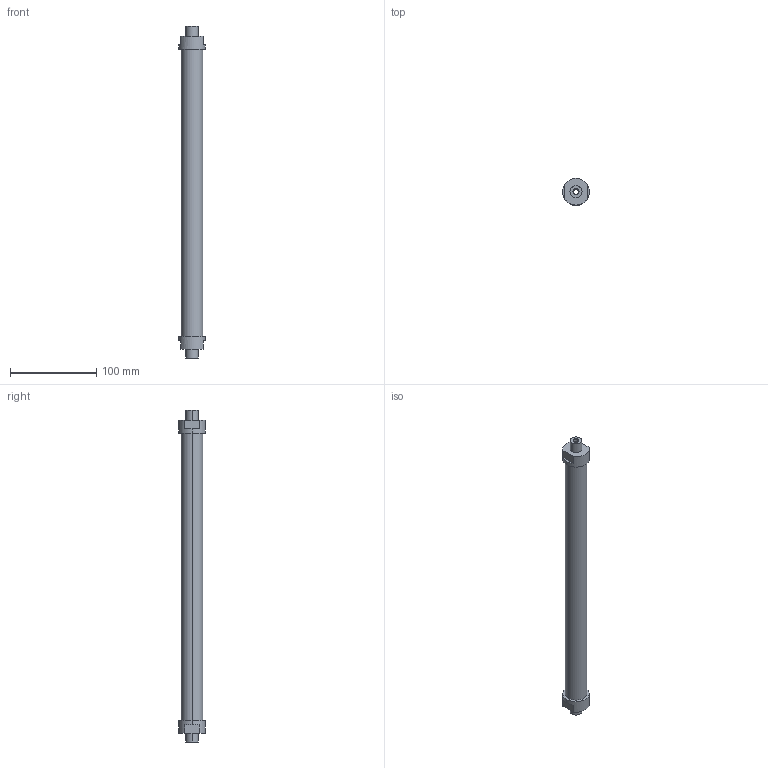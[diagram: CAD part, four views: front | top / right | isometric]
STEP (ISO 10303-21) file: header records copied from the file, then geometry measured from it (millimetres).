
FILE_DESCRIPTION(('STEP AP214'),'1');
FILE_NAME('ETT-R050G374.stp','2015-02-02T11:41:12',(' '),(' '),'Spatial InterOp 3D',' ',' ');
FILE_SCHEMA(('automotive_design'));
Length unit declared in the file: metre
Products named in the file (3): 1; 2; 3
Bounding box: 31 x 31 x 386 mm (x, y, z)
Volume: 177922.7 mm3; surface area: 39852.3 mm2
Topology: 1 solids, 7 shells, 32 faces, 86 edges, 66 vertices
Faces by surface type: cylinder 16, plane 16
Entity records: 1375 total; most frequent: DIRECTION 206, CARTESIAN_POINT 187, ORIENTED_EDGE 148, EDGE_CURVE 86, AXIS2_PLACEMENT_3D 85, VERTEX_POINT 66, CIRCLE 50, EDGE_LOOP 40
